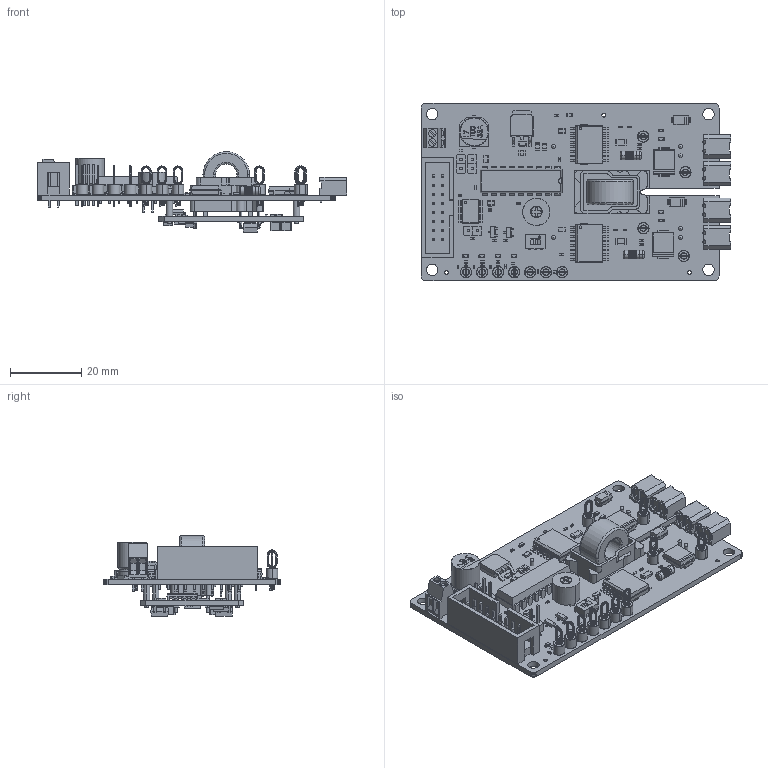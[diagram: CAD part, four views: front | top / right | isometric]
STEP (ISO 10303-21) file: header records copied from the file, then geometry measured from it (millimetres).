
FILE_DESCRIPTION(('for SolidWorks'),'2;1');
FILE_NAME('E:\Google Drive\03 Research & Development Projects\02 Gate Drive Circuit\07 3D Modeling\GDA2SW\STEP\GDA-2A2S1.step', '2015-08-21T03:59:04',('ghayurshah'),(''), 'Open CASCADE STEP processor 6.6','Diptrace','Unknown');
FILE_SCHEMA(('AUTOMOTIVE_DESIGN { 1 0 10303 214 1 1 1 1 }'));
Length unit declared in the file: millimetre
Products named in the file (28): PCB; Board; Model_2; Model_6; Model_9; Model_21; Model_27; Model_29; Model_39; Model_42; Model_45; Model_47; Model_51; Model_53; Model_58; Model_61; Model_84; Model_86; Model_89; Model_91; Model_94; Model_101; Model_103; Model_106; Model_108; Model_111; Model_113; Model_115
Assembly tree (90 placements, depth 2):
  PCB
    Board
    Model_2  x3
    Model_6  x2
    Model_9  x11
    Model_21  x5
    Model_27
    Model_29  x9
    Model_39  x2
    Model_42  x2
    Model_45
    Model_47  x3
    Model_51
    Model_53  x4
    Model_58  x2
    Model_61  x22
    Model_84
    Model_86  x2
    Model_89
    Model_91  x2
    Model_94  x6
    Model_101
    Model_103  x2
    Model_106
    Model_108  x2
    Model_111
    Model_113
    Model_115
Bounding box: 86.55 x 49.6 x 22.56 mm (x, y, z)
Volume: 6015.5 mm3; surface area: 22965.9 mm2
Topology: 1 solids, 266 shells, 9926 faces, 24680 edges, 15354 vertices
Faces by surface type: plane 6237, bspline 1762, cylinder 1523, sphere 254, torus 104, cone 46
Full cylindrical faces by diameter (mm): 0.5 x1, 1.05 x5, 3.2 x4
Entity records: 212831 total; most frequent: CARTESIAN_POINT 56474, ORIENTED_EDGE 25564, DIRECTION 23317, EDGE_CURVE 12811, LINE 9527, VECTOR 9527, VERTEX_POINT 8020, AXIS2_PLACEMENT_3D 6895
